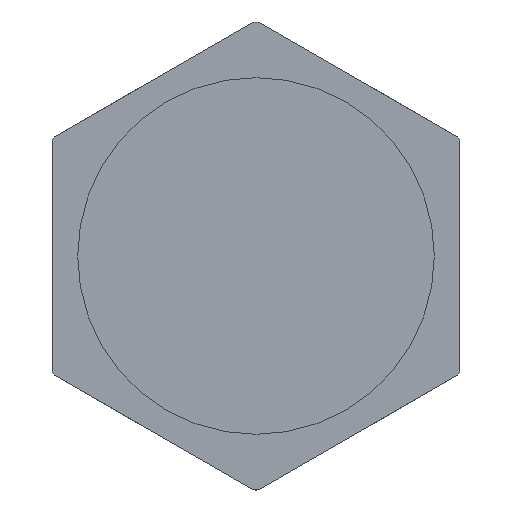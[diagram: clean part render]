
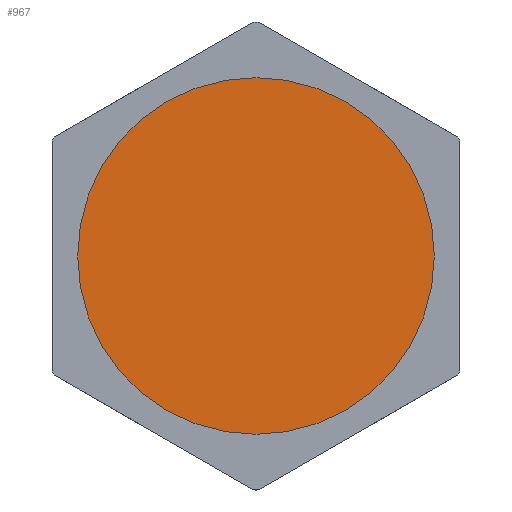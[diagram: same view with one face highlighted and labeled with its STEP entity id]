
A CAD part, left-side view. The second image highlights one B-rep face of the part: STEP entity #967.
In plain terms, the highlighted planar face has unit normal (-1, 0, 0).
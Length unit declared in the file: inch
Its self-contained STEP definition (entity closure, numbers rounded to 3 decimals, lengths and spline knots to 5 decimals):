
#176 = CIRCLE ( 'NONE', #324, 0.4375 ) ;
#178 = CIRCLE ( 'NONE', #339, 0.4375 ) ;
#253 = AXIS2_PLACEMENT_3D ( 'NONE', #833, #834, #835 ) ;
#324 = AXIS2_PLACEMENT_3D ( 'NONE', #457, #456, #454 ) ;
#339 = AXIS2_PLACEMENT_3D ( 'NONE', #743, #744, #745 ) ;
#350 = EDGE_CURVE ( 'NONE', #600, #573, #176, .T. ) ;
#395 = EDGE_CURVE ( 'NONE', #573, #600, #178, .T. ) ;
#454 = DIRECTION ( 'NONE',  ( 0., 0., -1. ) ) ;
#456 = DIRECTION ( 'NONE',  ( 1., 0., 0. ) ) ;
#457 = CARTESIAN_POINT ( 'NONE',  ( -4.792, 0., 0. ) ) ;
#522 = CARTESIAN_POINT ( 'NONE',  ( -4.792, 0., 0.4375 ) ) ;
#549 = ORIENTED_EDGE ( 'NONE', *, *, #395, .F. ) ;
#573 = VERTEX_POINT ( 'NONE', #522 ) ;
#595 = ORIENTED_EDGE ( 'NONE', *, *, #350, .F. ) ;
#600 = VERTEX_POINT ( 'NONE', #840 ) ;
#636 = EDGE_LOOP ( 'NONE', ( #595, #549 ) ) ;
#743 = CARTESIAN_POINT ( 'NONE',  ( -4.792, 0., 0. ) ) ;
#744 = DIRECTION ( 'NONE',  ( 1., 0., 0. ) ) ;
#745 = DIRECTION ( 'NONE',  ( 0., 0., -1. ) ) ;
#824 = PLANE ( 'NONE',  #253 ) ;
#833 = CARTESIAN_POINT ( 'NONE',  ( -4.792, 0.4375, 0. ) ) ;
#834 = DIRECTION ( 'NONE',  ( -1., 0., 0. ) ) ;
#835 = DIRECTION ( 'NONE',  ( 0., 0., 1. ) ) ;
#840 = CARTESIAN_POINT ( 'NONE',  ( -4.792, 0., -0.4375 ) ) ;
#967 = ADVANCED_FACE ( 'NONE', ( #987 ), #824, .T. ) ;
#987 = FACE_OUTER_BOUND ( 'NONE', #636, .T. ) ;
